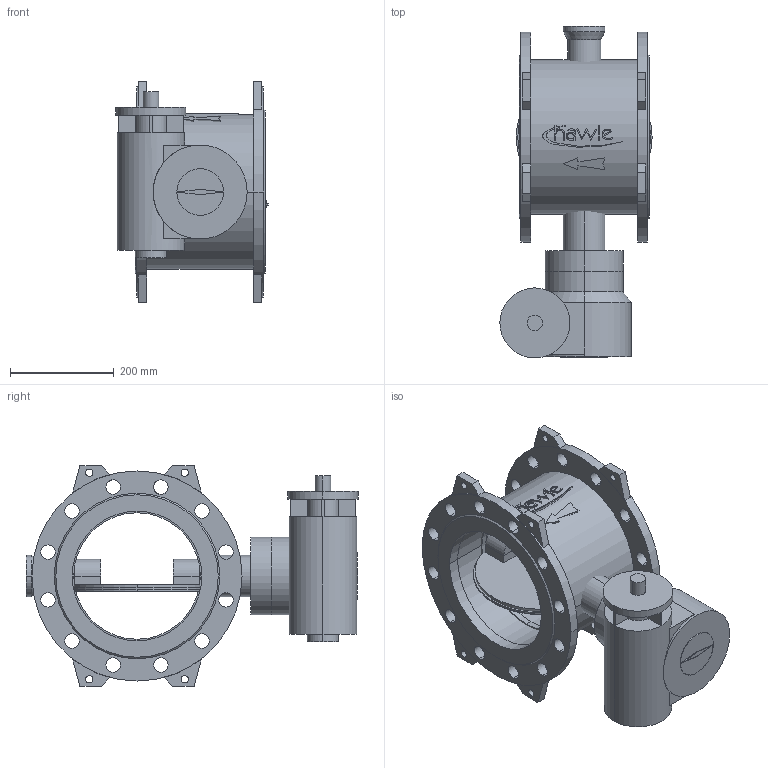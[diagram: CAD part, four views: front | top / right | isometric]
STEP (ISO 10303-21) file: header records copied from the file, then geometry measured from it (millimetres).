
FILE_DESCRIPTION(('STEP AP214'),'1');
FILE_NAME('S:/EK/USER/CAT6/3DHomepage_27-04-2012/neu_08-01-2013/9881K/9881K_PN16_DN250.STP','2013-02-26T15:21:03',(' '),(' '),'Spatial InterOp 3D',' ',' ');
FILE_SCHEMA(('automotive_design'));
Length unit declared in the file: millimetre
Products named in the file (46): 3D-Objekt
Bounding box: 293.5 x 640 x 426 mm (x, y, z)
Volume: 16473311.7 mm3; surface area: 1591089.5 mm2
Topology: 46 solids, 46 shells, 369 faces, 820 edges, 546 vertices
Faces by surface type: plane 196, cylinder 165, cone 8
Entity records: 14616 total; most frequent: DIRECTION 2000, CARTESIAN_POINT 1906, ORIENTED_EDGE 1640, EDGE_CURVE 820, AXIS2_PLACEMENT_3D 766, VERTEX_POINT 546, LINE 468, VECTOR 468
